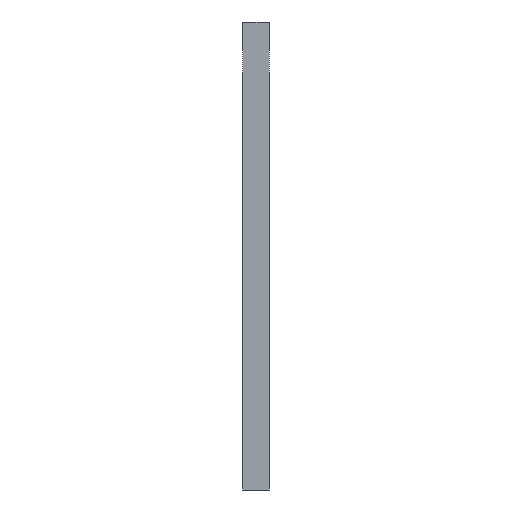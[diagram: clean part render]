
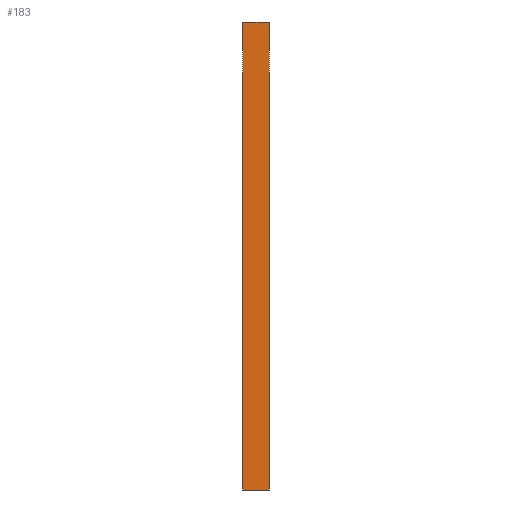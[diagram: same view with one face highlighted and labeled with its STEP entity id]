
A CAD part, left-side view. The second image highlights one B-rep face of the part: STEP entity #183.
In plain terms, the highlighted planar face has unit normal (-1, 0, 0).
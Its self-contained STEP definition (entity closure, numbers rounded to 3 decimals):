
#47 = CARTESIAN_POINT ( 'NONE',  ( -650., 20., -350. ) ) ;
#67 = VECTOR ( 'NONE', #482, 1000. ) ;
#87 = VERTEX_POINT ( 'NONE', #597 ) ;
#101 = VERTEX_POINT ( 'NONE', #738 ) ;
#112 = PLANE ( 'NONE',  #714 ) ;
#133 = EDGE_CURVE ( 'NONE', #406, #168, #338, .T. ) ;
#152 = VECTOR ( 'NONE', #268, 1000. ) ;
#164 = ORIENTED_EDGE ( 'NONE', *, *, #133, .T. ) ;
#168 = VERTEX_POINT ( 'NONE', #746 ) ;
#183 = ADVANCED_FACE ( 'NONE', ( #770 ), #112, .F. ) ;
#191 = DIRECTION ( 'NONE',  ( 0., -1., 0. ) ) ;
#232 = EDGE_LOOP ( 'NONE', ( #660, #480, #680, #164 ) ) ;
#235 = EDGE_CURVE ( 'NONE', #168, #101, #731, .T. ) ;
#243 = CARTESIAN_POINT ( 'NONE',  ( -650., 20., 0. ) ) ;
#249 = CARTESIAN_POINT ( 'NONE',  ( -650., 20., 0. ) ) ;
#268 = DIRECTION ( 'NONE',  ( 0., 0., -1. ) ) ;
#296 = EDGE_CURVE ( 'NONE', #406, #87, #580, .T. ) ;
#316 = LINE ( 'NONE', #582, #152 ) ;
#338 = LINE ( 'NONE', #243, #67 ) ;
#357 = DIRECTION ( 'NONE',  ( 0., -1., 0. ) ) ;
#363 = DIRECTION ( 'NONE',  ( 1., 0., 0. ) ) ;
#380 = CARTESIAN_POINT ( 'NONE',  ( -650., 20., 0. ) ) ;
#406 = VERTEX_POINT ( 'NONE', #249 ) ;
#480 = ORIENTED_EDGE ( 'NONE', *, *, #829, .F. ) ;
#482 = DIRECTION ( 'NONE',  ( 0., 0., -1. ) ) ;
#556 = DIRECTION ( 'NONE',  ( 0., 1., 0. ) ) ;
#558 = VECTOR ( 'NONE', #357, 1000. ) ;
#580 = LINE ( 'NONE', #380, #687 ) ;
#582 = CARTESIAN_POINT ( 'NONE',  ( -650., 0., 0. ) ) ;
#597 = CARTESIAN_POINT ( 'NONE',  ( -650., 0., 0. ) ) ;
#660 = ORIENTED_EDGE ( 'NONE', *, *, #235, .T. ) ;
#680 = ORIENTED_EDGE ( 'NONE', *, *, #296, .F. ) ;
#687 = VECTOR ( 'NONE', #191, 1000. ) ;
#694 = CARTESIAN_POINT ( 'NONE',  ( -650., 20., 0. ) ) ;
#714 = AXIS2_PLACEMENT_3D ( 'NONE', #694, #363, #556 ) ;
#731 = LINE ( 'NONE', #47, #558 ) ;
#738 = CARTESIAN_POINT ( 'NONE',  ( -650., 0., -350. ) ) ;
#746 = CARTESIAN_POINT ( 'NONE',  ( -650., 20., -350. ) ) ;
#770 = FACE_OUTER_BOUND ( 'NONE', #232, .T. ) ;
#829 = EDGE_CURVE ( 'NONE', #87, #101, #316, .T. ) ;
